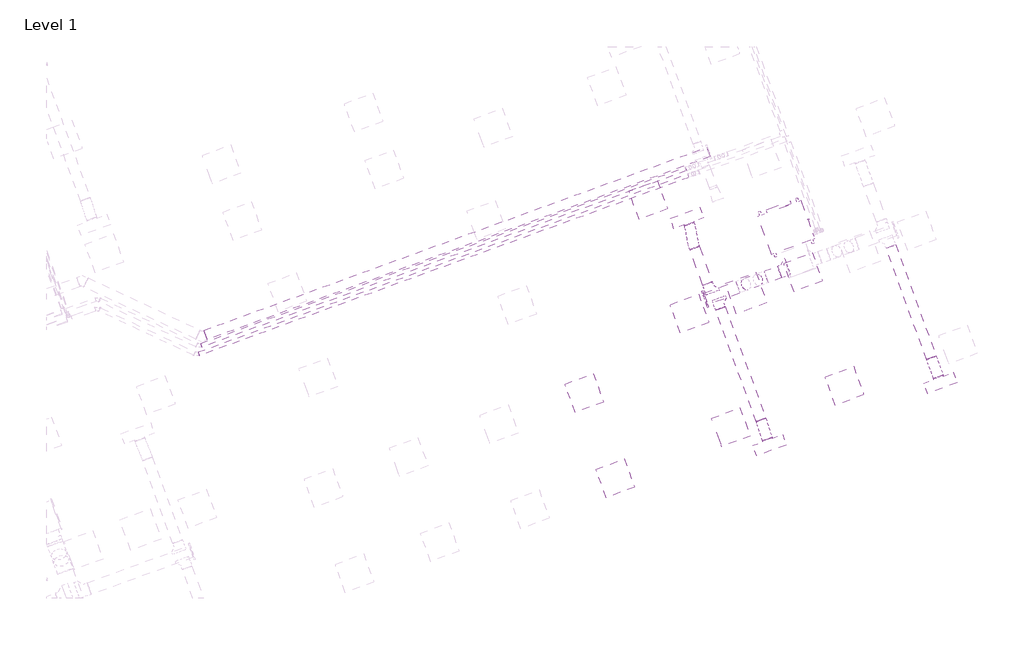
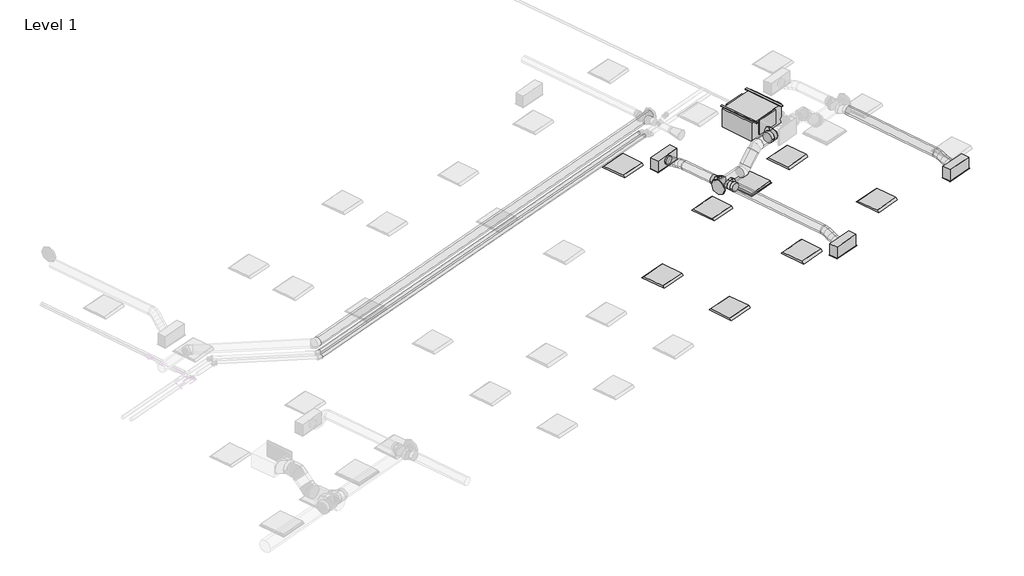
# One storey, part 25 of 30: 10 duct segments, 7 light fixtures, 4 air terminals, 4 duct fittings, 2 pipe segments, 1 proxy.
"""IFC4 building model written with IfcOpenShell, lengths in millimetres."""

from ifc_helpers import new_model, si_unit, point, frame, frame_2d, origin, place, context, project, spatial, circle_curve, ellipse_curve, trimmed, segment, composite_curve, outline, extrude, transform, mapped, element, save
from ifc_brep_helpers import plane_surface, cylinder_surface, advanced_brep
from components import return_grille_rectangular_hosted_standard_7b12617c, supply_diffuser_with_plenum_linear_slot_hosted_8c379eed, fan_coil_unit_ceiling_ducted_chw_376_lps_9c8cc8ac, dw144_round_blank_end_standard_e3d0b58b, dw144_round_shoe_branch_slip_joint1_standard_2_559552f4, dw144_round_shoe_branch_slip_joint1_standard_2_671412f0, light_fixture_1c7c1157, light_fixture_b730b5ca

model = new_model("IFC4")

# Units and contexts
model_context = context("Model", 3, world=origin())
ifc_project = project(units=[si_unit("LENGTHUNIT", "METRE", prefix="MILLI")], contexts=[model_context])

# Site, building, storey
site = spatial("IfcSite", under=ifc_project)
building = spatial("IfcBuilding", under=site)
storey = spatial("IfcBuildingStorey", under=building, Name="Level 1", Elevation=3900.0)

# Air terminals
placement = place(None, origin())
return_grille_rectangular_hosted_standard_shape = return_grille_rectangular_hosted_standard_7b12617c(model_context)
element("IfcAirTerminal", 1, ObjectType="Return Grille - Rectangular - Hosted : Standard", at=placement, inside=storey, context=model_context, shape_type="MappedRepresentation", body=[
    mapped(return_grille_rectangular_hosted_standard_shape, transform((60085.8279951, 13927.8982228, 6700.0), x_axis=(0.939692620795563, 0.3420201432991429, 0.0), y_axis=(0.3420201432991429, -0.939692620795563, 0.0), z_axis=(0.0, 0.0, -1.0))),
])
supply_diffuser_with_plenum_linear_slot_hosted_shape = supply_diffuser_with_plenum_linear_slot_hosted_8c379eed(model_context)
element("IfcAirTerminal", 2, ObjectType="Supply Diffuser with Plenum - Linear Slot - Hosted : 24\" x 8\"-200 In Inlet  4-Slot", at=placement, inside=storey, context=model_context, shape_type="MappedRepresentation", body=[
    mapped(supply_diffuser_with_plenum_linear_slot_hosted_shape, transform((58909.9480529, 15418.2584463, 6700.0), x_axis=(-0.9396926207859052, -0.3420201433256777, 0.0), y_axis=(-0.3420201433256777, 0.9396926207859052, 0.0), z_axis=(0.0, 0.0, -1.0))),
])
element("IfcAirTerminal", 3, ObjectType="Supply Diffuser with Plenum - Linear Slot - Hosted : 24\" x 8\"-200 In Inlet  4-Slot", at=placement, inside=storey, context=model_context, shape_type="MappedRepresentation", body=[
    mapped(supply_diffuser_with_plenum_linear_slot_hosted_shape, transform((60551.6447408, 10907.7338665, 6700.0), x_axis=(0.939692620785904, 0.34202014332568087, 0.0), y_axis=(0.34202014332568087, -0.939692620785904, 0.0), z_axis=(0.0, 0.0, -1.0))),
])
element("IfcAirTerminal", 4, ObjectType="Supply Diffuser with Plenum - Linear Slot - Hosted : 24\" x 8\"-200 In Inlet  4-Slot", at=placement, inside=storey, context=model_context, shape_type="MappedRepresentation", body=[
    mapped(supply_diffuser_with_plenum_linear_slot_hosted_shape, transform((63945.5325789, 12143.008018, 6700.0), x_axis=(0.939692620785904, 0.34202014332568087, 0.0), y_axis=(0.34202014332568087, -0.939692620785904, 0.0), z_axis=(0.0, 0.0, -1.0))),
])

# Proxy
fan_coil_unit_ceiling_ducted_chw_376_lps_shape = fan_coil_unit_ceiling_ducted_chw_376_lps_9c8cc8ac(model_context)
element("IfcBuildingElementProxy", 5, Name="Fan Coil Unit - Ceiling Ducted - CHW : 376 LPS", ObjectType="Fan Coil Unit - Ceiling Ducted - CHW : 376 LPS", at=placement, inside=storey, context=model_context, shape_type="MappedRepresentation", body=[
    mapped(fan_coil_unit_ceiling_ducted_chw_376_lps_shape, transform((60591.3674268, 14691.8764142, 7115.575), x_axis=(0.9396926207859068, 0.34202014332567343, 0.0), y_axis=(-0.34202014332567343, 0.9396926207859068, 0.0), z_axis=(0.0, 0.0, 1.0))),
])

# Duct fittings
dw144_round_blank_end_standard_shape = dw144_round_blank_end_standard_e3d0b58b(model_context)
element("IfcDuctFitting", 6, ObjectType="DW144 Round Blank End : Standard", at=placement, inside=storey, context=model_context, shape_type="MappedRepresentation", body=[
    mapped(dw144_round_blank_end_standard_shape, transform((59281.7426902, 13810.5786489, 6972.2088531), x_axis=(-0.9396926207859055, -0.3420201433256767, 0.0), y_axis=(0.3420201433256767, -0.9396926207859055, 0.0), z_axis=(0.0, 0.0, 1.0))),
])
dw144_round_shoe_branch_slip_joint1_standard_2_shape = dw144_round_shoe_branch_slip_joint1_standard_2_559552f4(model_context)
element("IfcDuctFitting", 7, ObjectType="DW144 Round Shoe Branch - Slip Joint1 : Standard 2", at=placement, inside=storey, context=model_context, shape_type="MappedRepresentation", body=[
    mapped(dw144_round_shoe_branch_slip_joint1_standard_2_shape, transform((59369.8278219, 13975.6612364, 6972.2088531), x_axis=(-0.34202014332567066, 0.9396926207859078, 0.0), y_axis=(0.9396926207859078, 0.34202014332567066, 0.0), z_axis=(0.0, 0.0, -1.0))),
])
element("IfcDuctFitting", 8, ObjectType="DW144 Round Shoe Branch - Slip Joint1 : Standard 2", at=placement, inside=storey, context=model_context, shape_type="MappedRepresentation", body=[
    mapped(dw144_round_shoe_branch_slip_joint1_standard_2_shape, transform((59523.8850118, 13765.6890248, 6972.2088531), x_axis=(0.3420201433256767, -0.9396926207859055, 0.0), y_axis=(0.9396926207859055, 0.3420201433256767, 0.0), z_axis=(0.0, 0.0, 1.0))),
])
dw144_round_shoe_branch_slip_joint1_standard_2_2_shape = dw144_round_shoe_branch_slip_joint1_standard_2_671412f0(model_context)
element("IfcDuctFitting", 9, ObjectType="DW144 Round Shoe Branch - Slip Joint1 : Standard 2", at=placement, inside=storey, context=model_context, shape_type="MappedRepresentation", body=[
    mapped(dw144_round_shoe_branch_slip_joint1_standard_2_2_shape, transform((60916.1183876, 14405.4427543, 7369.575), x_axis=(-0.9396926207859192, -0.3420201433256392, 0.0), y_axis=(-0.3420201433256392, 0.9396926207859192, 0.0), z_axis=(0.0, 0.0, -1.0))),
])

# Duct segments
element("IfcDuctSegment", 10, ObjectType="DW144 Segmented Bend / Shoe Branch", at=placement, inside=storey, context=model_context, shape_type="SweptSolid", body=[
    extrude(outline(composite_curve([segment(trimmed(circle_curve(frame_2d((0.0, 125.0)), 125.0), [point((125.0, 125.0))], [point((0.0, 0.0))], False, "CARTESIAN"), True, "CONTINUOUS"), segment(trimmed(circle_curve(frame_2d((0.0, 125.0)), 125.0), [point((0.0, 0.0))], [point((-125.0, 125.0))], False, "CARTESIAN"), True, "CONTINUOUS"), segment(trimmed(circle_curve(frame_2d((0.0, 125.0)), 125.0), [point((-125.0, 125.0))], [point((0.0, 250.0))], False, "CARTESIAN"), True, "CONTINUOUS"), segment(trimmed(circle_curve(frame_2d((0.0, 125.0)), 125.0), [point((0.0, 250.0))], [point((125.0, 125.0))], False, "CARTESIAN"), True, "CONTINUOUS")], self_intersect=False)), frame((59281.7426902, 13810.5786489, 7097.2088531), z_axis=(0.9396926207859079, 0.3420201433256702, 0.0), x_axis=(0.3420201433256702, -0.9396926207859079, 0.0)), (0.0, 0.0, 1.0), 679.0869492),
])
element("IfcDuctSegment", 11, ObjectType="DW144 Segmented Bend / Shoe Branch", at=placement, inside=storey, context=model_context, shape_type="SweptSolid", body=[
    extrude(outline(composite_curve([segment(trimmed(circle_curve(frame_2d((0.0, -100.0)), 100.0), [point((-100.0, -100.0))], [point((0.0, 0.0))], False, "CARTESIAN"), True, "CONTINUOUS"), segment(trimmed(circle_curve(frame_2d((0.0, -100.0)), 100.0), [point((0.0, 0.0))], [point((100.0, -100.0))], False, "CARTESIAN"), True, "CONTINUOUS"), segment(trimmed(circle_curve(frame_2d((0.0, -100.0)), 100.0), [point((100.0, -100.0))], [point((0.0, -200.0))], False, "CARTESIAN"), True, "CONTINUOUS"), segment(trimmed(circle_curve(frame_2d((0.0, -100.0)), 100.0), [point((0.0, -200.0))], [point((-100.0, -100.0))], False, "CARTESIAN"), True, "CONTINUOUS")], self_intersect=False)), frame((63763.6810908, 12642.6408754, 6872.2088531), z_axis=(-0.34202014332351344, 0.9396926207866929, 0.0), x_axis=(0.9396926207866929, 0.34202014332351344, 0.0)), (0.0, 0.0, 1.0), 2355.4157214),
])
element("IfcDuctSegment", 12, ObjectType="DW144 Segmented Bend / Shoe Branch", at=placement, inside=storey, context=model_context, shape_type="SweptSolid", body=[
    extrude(outline(composite_curve([segment(trimmed(circle_curve(frame_2d((0.0, 100.0)), 100.0), [point((99.9999999, 100.0))], [point((0.0, 0.0))], False, "CARTESIAN"), True, "CONTINUOUS"), segment(trimmed(circle_curve(frame_2d((0.0, 100.0)), 100.0), [point((0.0, 0.0))], [point((-100.0, 100.0))], False, "CARTESIAN"), True, "CONTINUOUS"), segment(trimmed(circle_curve(frame_2d((0.0, 100.0)), 100.0), [point((-100.0, 100.0))], [point((0.0, 200.0))], False, "CARTESIAN"), True, "CONTINUOUS"), segment(trimmed(circle_curve(frame_2d((0.0, 100.0)), 100.0), [point((0.0, 200.0))], [point((99.9999999, 100.0))], False, "CARTESIAN"), True, "CONTINUOUS")], self_intersect=False)), frame((59318.5248004, 14116.6151296, 7072.2088531), z_axis=(-0.3420201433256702, 0.9396926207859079, 0.0), x_axis=(0.9396926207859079, 0.3420201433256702, 0.0)), (0.0, 0.0, 1.0), 750.0),
])
element("IfcDuctSegment", 13, ObjectType="DW144 Segmented Bend / Shoe Branch", at=placement, inside=storey, context=model_context, shape_type="SweptSolid", body=[
    extrude(outline(composite_curve([segment(trimmed(circle_curve(frame_2d((0.0, 100.0)), 100.0), [point((100.0, 100.0))], [point((0.0, 0.0))], False, "CARTESIAN"), True, "CONTINUOUS"), segment(trimmed(circle_curve(frame_2d((0.0, 100.0)), 100.0), [point((0.0, 0.0))], [point((-99.9999999, 100.0))], False, "CARTESIAN"), True, "CONTINUOUS"), segment(trimmed(circle_curve(frame_2d((0.0, 100.0)), 100.0), [point((-99.9999999, 100.0))], [point((0.0, 200.0))], False, "CARTESIAN"), True, "CONTINUOUS"), segment(trimmed(circle_curve(frame_2d((0.0, 100.0)), 100.0), [point((0.0, 200.0))], [point((100.0, 100.0))], False, "CARTESIAN"), True, "CONTINUOUS")], self_intersect=False)), frame((60380.7876559, 11411.3683594, 7072.2088531), z_axis=(-0.34202014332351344, 0.9396926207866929, 0.0), x_axis=(0.9396926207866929, 0.34202014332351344, 0.0)), (0.0, 0.0, 1.0), 2355.4157214),
])
element("IfcDuctSegment", 14, ObjectType="DW144 Segmented Bend / Shoe Branch", at=placement, inside=storey, context=model_context, shape_type="SweptSolid", body=[
    extrude(outline(composite_curve([segment(trimmed(circle_curve(frame_2d((0.0, -125.0)), 125.0), [point((-125.0, -125.0))], [point((0.0, 0.0))], False, "CARTESIAN"), True, "CONTINUOUS"), segment(trimmed(circle_curve(frame_2d((0.0, -125.0)), 125.0), [point((0.0, 0.0))], [point((125.0, -125.0))], False, "CARTESIAN"), True, "CONTINUOUS"), segment(trimmed(circle_curve(frame_2d((0.0, -125.0)), 125.0), [point((125.0, -125.0))], [point((0.0, -250.0))], False, "CARTESIAN"), True, "CONTINUOUS"), segment(trimmed(circle_curve(frame_2d((0.0, -125.0)), 125.0), [point((0.0, -250.0))], [point((-125.0, -125.0))], False, "CARTESIAN"), True, "CONTINUOUS")], self_intersect=False)), frame((60487.8944352, 14249.5819821, 7244.575), z_axis=(0.9396926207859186, 0.3420201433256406, 0.0), x_axis=(0.3420201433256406, -0.9396926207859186, 0.0)), (0.0, 0.0, 1.0), 280.7064117),
])
element("IfcDuctSegment", 15, ObjectType="DW144 Segmented Bend / Shoe Branch", at=placement, inside=storey, context=model_context, shape_type="SweptSolid", body=[
    extrude(outline(composite_curve([segment(trimmed(circle_curve(frame_2d((0.0, -125.0)), 125.0), [point((-57.2076922, -13.8591887))], [point((111.1408113, -67.7923077))], False, "CARTESIAN"), True, "CONTINUOUS"), segment(trimmed(circle_curve(frame_2d((0.0, -125.0)), 125.0), [point((111.1408113, -67.7923077))], [point((57.2076923, -236.1408114))], False, "CARTESIAN"), True, "CONTINUOUS"), segment(trimmed(circle_curve(frame_2d((0.0, -125.0)), 125.0), [point((57.2076923, -236.1408114))], [point((-111.1408114, -182.2076923))], False, "CARTESIAN"), True, "CONTINUOUS"), segment(trimmed(circle_curve(frame_2d((0.0, -125.0)), 125.0), [point((-111.1408114, -182.2076923))], [point((-57.2076922, -13.8591887))], False, "CARTESIAN"), True, "CONTINUOUS")], self_intersect=False)), frame((60085.9914414, 14221.5748363, 7004.9802107), z_axis=(0.6644630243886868, 0.24184476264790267, 0.7071067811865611), x_axis=(0.7473211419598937, -0.21503058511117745, -0.6287073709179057)), (0.0, 0.0, 1.0), 354.8538129),
])
element("IfcDuctSegment", 16, ObjectType="DW144 Segmented Bend / Shoe Branch", at=placement, inside=storey, context=model_context, shape_type="SweptSolid", body=[
    extrude(outline(composite_curve([segment(trimmed(circle_curve(frame_2d((0.0, 100.0)), 100.0), [point((100.0, 100.0))], [point((0.0, 0.0))], False, "CARTESIAN"), True, "CONTINUOUS"), segment(trimmed(circle_curve(frame_2d((0.0, 100.0)), 100.0), [point((0.0, 0.0))], [point((-99.9999999, 100.0))], False, "CARTESIAN"), True, "CONTINUOUS"), segment(trimmed(circle_curve(frame_2d((0.0, 100.0)), 100.0), [point((-99.9999999, 100.0))], [point((0.0, 200.0))], False, "CARTESIAN"), True, "CONTINUOUS"), segment(trimmed(circle_curve(frame_2d((0.0, 100.0)), 100.0), [point((0.0, 200.0))], [point((100.0, 100.0))], False, "CARTESIAN"), True, "CONTINUOUS")], self_intersect=False)), frame((49357.2153843, 13096.2096323, 7100.0), z_axis=(0.9396926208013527, 0.34202014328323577, 0.0), x_axis=(0.34202014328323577, -0.9396926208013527, 0.0)), (0.0, 0.0, 1.0), 10617.3976502),
])
element("IfcDuctSegment", 17, ObjectType="Flex - Round", at=placement, inside=storey, context=model_context, shape_type="AdvancedBrep", body=[
    advanced_brep(
    [(58968.0404308, 14787.1825808, 6972.2088531), (59062.0096929, 14821.3845951, 6872.2088531), (59155.9789549, 14855.5866095, 6972.2088531), (59062.0096929, 14821.3845951, 7072.2088531), (58962.5721424, 14802.2065796, 6972.2088531), (59060.2125358, 14826.3222437, 6872.2088531), (59153.0222525, 14863.7100827, 6972.2088531), (59055.3818591, 14839.5944186, 7072.2088531), (58860.0651873, 15262.9300531, 6854.4), (58954.0344493, 15297.1320675, 6954.4), (59048.0037114, 15331.3340818, 6854.4), (58954.0344493, 15297.1320675, 6754.4), (58937.0196311, 14892.6674709, 6958.8839491), (59040.6740237, 14895.4924005, 6862.0200778), (59131.5841884, 14939.6050256, 6961.0295157), (59027.9297957, 14936.780096, 7057.893387), (58917.4963466, 14993.0799105, 6928.1156387), (59024.0290854, 14981.1008882, 6835.787984), (59114.0301099, 15029.8894164, 6933.364635), (59007.4973711, 15041.8684386, 7025.6922896), (58902.0140323, 15088.6272463, 6893.2442181), (59008.5467711, 15076.648224, 6800.9165635), (59098.5477956, 15125.4367521, 6898.4932145), (58992.0150568, 15137.4157744, 6990.8208691), (58884.4599539, 15178.911637, 6865.5793374), (58988.1143465, 15181.7365666, 6768.7154661), (59079.0245111, 15225.8491917, 6867.724904), (58975.3701185, 15223.0242621, 6964.5887754), (58863.0218897, 15254.8065799, 6854.4), (58960.6622831, 15278.922244, 6754.4), (59053.4719998, 15316.310083, 6854.4), (58955.8316064, 15292.1944189, 6954.4)],
    [
        (0, 1, circle_curve(frame((59062.0096929, 14821.3845951, 6972.2088531), z_axis=(0.34202014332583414, -0.9396926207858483, 0.0), x_axis=(-0.9396926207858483, -0.34202014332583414, 0.0)), 100.0)),
        (1, 2, circle_curve(frame((59062.0096929, 14821.3845951, 6972.2088531), z_axis=(0.34202014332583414, -0.9396926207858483, 0.0), x_axis=(-0.9396926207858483, -0.34202014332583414, 0.0)), 100.0)),
        (2, 3, circle_curve(frame((59062.0096929, 14821.3845951, 6972.2088531), z_axis=(0.34202014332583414, -0.9396926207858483, 0.0), x_axis=(-0.9396926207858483, -0.34202014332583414, 0.0)), 100.0)),
        (3, 0, circle_curve(frame((59062.0096929, 14821.3845951, 6972.2088531), z_axis=(0.34202014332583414, -0.9396926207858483, 0.0), x_axis=(-0.9396926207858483, -0.34202014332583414, 0.0)), 100.0)),
        (0, 4),
        (4, 5, ellipse_curve(frame((59057.7971975, 14832.9583311, 6972.2088531), z_axis=(0.30654801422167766, -0.949248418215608, 0.07039712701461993), x_axis=(0.4592505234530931, 0.08271786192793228, -0.8844471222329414)), 100.3162641, 100.0)),
        (5, 1),
        (5, 6, ellipse_curve(frame((59057.7971975, 14832.9583311, 6972.2088531), z_axis=(0.30654801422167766, -0.949248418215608, 0.07039712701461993), x_axis=(0.4592505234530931, 0.08271786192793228, -0.8844471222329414)), 100.3162641, 100.0)),
        (6, 2),
        (6, 7, ellipse_curve(frame((59057.7971975, 14832.9583311, 6972.2088531), z_axis=(0.30654801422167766, -0.949248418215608, 0.07039712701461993), x_axis=(0.4592505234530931, 0.08271786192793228, -0.8844471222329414)), 100.3162641, 100.0)),
        (7, 3),
        (7, 4, ellipse_curve(frame((59057.7971975, 14832.9583311, 6972.2088531), z_axis=(0.30654801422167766, -0.949248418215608, 0.07039712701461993), x_axis=(0.4592505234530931, 0.08271786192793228, -0.8844471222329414)), 100.3162641, 100.0)),
        (8, 9, circle_curve(frame((58954.0344493, 15297.1320675, 6854.4), z_axis=(-0.3420201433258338, 0.9396926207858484, 0.0), x_axis=(-0.9396926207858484, -0.3420201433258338, 0.0)), 100.0)),
        (9, 10, circle_curve(frame((58954.0344493, 15297.1320675, 6854.4), z_axis=(-0.3420201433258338, 0.9396926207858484, 0.0), x_axis=(-0.9396926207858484, -0.3420201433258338, 0.0)), 100.0)),
        (10, 11, circle_curve(frame((58954.0344493, 15297.1320675, 6854.4), z_axis=(-0.3420201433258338, 0.9396926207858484, 0.0), x_axis=(-0.9396926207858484, -0.3420201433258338, 0.0)), 100.0)),
        (11, 8, circle_curve(frame((58954.0344493, 15297.1320675, 6854.4), z_axis=(-0.3420201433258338, 0.9396926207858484, 0.0), x_axis=(-0.9396926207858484, -0.3420201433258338, 0.0)), 100.0)),
        (4, 12),
        (12, 13, ellipse_curve(frame((59034.3019097, 14916.1362483, 6959.9567324), z_axis=(0.2267915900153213, -0.9499189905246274, 0.2149871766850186), x_axis=(0.5034364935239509, -0.07462382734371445, -0.8608036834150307)), 100.3699991, 100.0)),
        (13, 5),
        (13, 14, ellipse_curve(frame((59034.3019097, 14916.1362483, 6959.9567324), z_axis=(0.2267915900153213, -0.9499189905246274, 0.2149871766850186), x_axis=(0.5034364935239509, -0.07462382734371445, -0.8608036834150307)), 100.3699991, 100.0)),
        (14, 6),
        (14, 15, ellipse_curve(frame((59034.3019097, 14916.1362483, 6959.9567324), z_axis=(0.2267915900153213, -0.9499189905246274, 0.2149871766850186), x_axis=(0.5034364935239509, -0.07462382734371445, -0.8608036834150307)), 100.3699991, 100.0)),
        (15, 7),
        (15, 12, ellipse_curve(frame((59034.3019097, 14916.1362483, 6959.9567324), z_axis=(0.2267915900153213, -0.9499189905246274, 0.2149871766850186), x_axis=(0.5034364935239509, -0.07462382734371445, -0.8608036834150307)), 100.3699991, 100.0)),
        (12, 16),
        (16, 17, ellipse_curve(frame((59015.7632282, 15011.4846634, 6930.7401368), z_axis=(0.1667044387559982, -0.9347947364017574, 0.3136374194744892), x_axis=(0.5263956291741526, -0.1845903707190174, -0.8299602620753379)), 100.0470512, 100.0)),
        (17, 13),
        (17, 18, ellipse_curve(frame((59015.7632282, 15011.4846634, 6930.7401368), z_axis=(0.1667044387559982, -0.9347947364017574, 0.3136374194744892), x_axis=(0.5263956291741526, -0.1845903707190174, -0.8299602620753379)), 100.0470512, 100.0)),
        (18, 14),
        (18, 19, ellipse_curve(frame((59015.7632282, 15011.4846634, 6930.7401368), z_axis=(0.1667044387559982, -0.9347947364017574, 0.3136374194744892), x_axis=(0.5263956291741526, -0.1845903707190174, -0.8299602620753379)), 100.0470512, 100.0)),
        (19, 15),
        (19, 16, ellipse_curve(frame((59015.7632282, 15011.4846634, 6930.7401368), z_axis=(0.1667044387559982, -0.9347947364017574, 0.3136374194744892), x_axis=(0.5263956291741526, -0.1845903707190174, -0.8299602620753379)), 100.0470512, 100.0)),
        (16, 20),
        (20, 21, ellipse_curve(frame((59000.280914, 15107.0319992, 6895.8687163), z_axis=(0.16670443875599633, -0.9347947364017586, 0.31363741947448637), x_axis=(-0.5263956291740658, 0.18459037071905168, 0.8299602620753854)), 100.0470512, 100.0)),
        (21, 17),
        (21, 22, ellipse_curve(frame((59000.280914, 15107.0319992, 6895.8687163), z_axis=(0.16670443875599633, -0.9347947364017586, 0.31363741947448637), x_axis=(-0.5263956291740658, 0.18459037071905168, 0.8299602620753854)), 100.0470512, 100.0)),
        (22, 18),
        (22, 23, ellipse_curve(frame((59000.280914, 15107.0319992, 6895.8687163), z_axis=(0.16670443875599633, -0.9347947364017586, 0.31363741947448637), x_axis=(-0.5263956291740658, 0.18459037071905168, 0.8299602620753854)), 100.0470512, 100.0)),
        (23, 19),
        (23, 20, ellipse_curve(frame((59000.280914, 15107.0319992, 6895.8687163), z_axis=(0.16670443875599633, -0.9347947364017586, 0.31363741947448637), x_axis=(-0.5263956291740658, 0.18459037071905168, 0.8299602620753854)), 100.0470512, 100.0)),
        (20, 24),
        (24, 25, ellipse_curve(frame((58981.7422325, 15202.3804143, 6866.6521207), z_axis=(0.22679159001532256, -0.9499189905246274, 0.21498717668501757), x_axis=(-0.5034364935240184, 0.07462382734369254, 0.8608036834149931)), 100.3699991, 100.0)),
        (25, 21),
        (25, 26, ellipse_curve(frame((58981.7422325, 15202.3804143, 6866.6521207), z_axis=(0.22679159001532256, -0.9499189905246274, 0.21498717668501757), x_axis=(-0.5034364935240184, 0.07462382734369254, 0.8608036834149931)), 100.3699991, 100.0)),
        (26, 22),
        (26, 27, ellipse_curve(frame((58981.7422325, 15202.3804143, 6866.6521207), z_axis=(0.22679159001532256, -0.9499189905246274, 0.21498717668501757), x_axis=(-0.5034364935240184, 0.07462382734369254, 0.8608036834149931)), 100.3699991, 100.0)),
        (27, 23),
        (27, 24, ellipse_curve(frame((58981.7422325, 15202.3804143, 6866.6521207), z_axis=(0.22679159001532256, -0.9499189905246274, 0.21498717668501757), x_axis=(-0.5034364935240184, 0.07462382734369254, 0.8608036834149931)), 100.3699991, 100.0)),
        (24, 28),
        (28, 29, ellipse_curve(frame((58958.2469447, 15285.5583315, 6854.4), z_axis=(0.3065480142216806, -0.9492484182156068, 0.07039712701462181), x_axis=(-0.4592505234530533, -0.08271786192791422, 0.8844471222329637)), 100.3162641, 100.0)),
        (29, 25),
        (29, 30, ellipse_curve(frame((58958.2469447, 15285.5583315, 6854.4), z_axis=(0.3065480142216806, -0.9492484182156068, 0.07039712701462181), x_axis=(-0.4592505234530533, -0.08271786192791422, 0.8844471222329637)), 100.3162641, 100.0)),
        (30, 26),
        (30, 31, ellipse_curve(frame((58958.2469447, 15285.5583315, 6854.4), z_axis=(0.3065480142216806, -0.9492484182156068, 0.07039712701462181), x_axis=(-0.4592505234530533, -0.08271786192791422, 0.8844471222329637)), 100.3162641, 100.0)),
        (31, 27),
        (31, 28, ellipse_curve(frame((58958.2469447, 15285.5583315, 6854.4), z_axis=(0.3065480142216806, -0.9492484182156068, 0.07039712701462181), x_axis=(-0.4592505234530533, -0.08271786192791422, 0.8844471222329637)), 100.3162641, 100.0)),
        (28, 8),
        (11, 29),
        (10, 30),
        (9, 31),
    ],
    [
        plane_surface(frame((59062.0096929, 14821.3845951, 7072.2088531), z_axis=(0.3420201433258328, -0.9396926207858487, 0.0), x_axis=(0.9396926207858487, 0.3420201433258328, 0.0))),
        cylinder_surface(frame((59062.0096929, 14821.3845951, 6972.2088531), z_axis=(0.34202014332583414, -0.9396926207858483, 0.0), x_axis=(-0.9396926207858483, -0.34202014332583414, 0.0)), 100.0),
        plane_surface(frame((58954.0344493, 15297.1320675, 6954.4), z_axis=(-0.3420201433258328, 0.9396926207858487, 0.0), x_axis=(0.9396926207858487, 0.3420201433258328, 0.0))),
        cylinder_surface(frame((59057.7971975, 14832.9583311, 6972.2088531), z_axis=(0.26914299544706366, -0.9528188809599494, 0.14035037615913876), x_axis=(-0.9621326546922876, -0.2725329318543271, -0.005153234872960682)), 100.0),
        cylinder_surface(frame((59034.3019097, 14916.1362483, 6959.9567324), z_axis=(0.18276811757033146, -0.9400156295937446, 0.2880389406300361), x_axis=(-0.980082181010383, -0.19735114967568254, -0.022168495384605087)), 100.0),
        cylinder_surface(frame((59015.7632282, 15011.4846634, 6930.7401368), z_axis=(0.1504839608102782, -0.9286945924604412, 0.33894089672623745), x_axis=(-0.9847985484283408, -0.1709041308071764, -0.031041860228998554)), 100.0),
        cylinder_surface(frame((59000.280914, 15107.0319992, 6895.8687163), z_axis=(0.18276811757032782, -0.9400156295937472, 0.28803894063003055), x_axis=(-0.9800821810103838, -0.19735114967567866, -0.02216849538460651)), 100.0),
        cylinder_surface(frame((58981.7422325, 15202.3804143, 6866.6521207), z_axis=(0.2691429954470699, -0.952818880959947, 0.14035037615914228), x_axis=(-0.9621326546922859, -0.2725329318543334, -0.005153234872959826)), 100.0),
        cylinder_surface(frame((58958.2469447, 15285.5583315, 6854.4), z_axis=(0.3420201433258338, -0.9396926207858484, 0.0), x_axis=(-0.9396926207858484, -0.3420201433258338, 0.0)), 100.0),
    ],
    [
        (0, [[1, 2, 3, 4]]),
        (1, [[-1, 5, 6, 7]]),
        (1, [[-2, -7, 8, 9]]),
        (1, [[-3, -9, 10, 11]]),
        (1, [[-4, -11, 12, -5]]),
        (2, [[13, 14, 15, 16]]),
        (3, [[-6, 17, 18, 19]]),
        (3, [[-8, -19, 20, 21]]),
        (3, [[-10, -21, 22, 23]]),
        (3, [[-12, -23, 24, -17]]),
        (4, [[-18, 25, 26, 27]]),
        (4, [[-20, -27, 28, 29]]),
        (4, [[-22, -29, 30, 31]]),
        (4, [[-24, -31, 32, -25]]),
        (5, [[-26, 33, 34, 35]]),
        (5, [[-28, -35, 36, 37]]),
        (5, [[-30, -37, 38, 39]]),
        (5, [[-32, -39, 40, -33]]),
        (6, [[-34, 41, 42, 43]]),
        (6, [[-36, -43, 44, 45]]),
        (6, [[-38, -45, 46, 47]]),
        (6, [[-40, -47, 48, -41]]),
        (7, [[-42, 49, 50, 51]]),
        (7, [[-44, -51, 52, 53]]),
        (7, [[-46, -53, 54, 55]]),
        (7, [[-48, -55, 56, -49]]),
        (8, [[-50, 57, -16, 58]]),
        (8, [[-52, -58, -15, 59]]),
        (8, [[-54, -59, -14, 60]]),
        (8, [[-56, -60, -13, -57]]),
    ],
),
])
element("IfcDuctSegment", 18, ObjectType="Flex - Round", at=placement, inside=storey, context=model_context, shape_type="AdvancedBrep", body=[
    advanced_brep(
    [(60474.756918, 11445.5703738, 6972.2088531), (60380.7876559, 11411.3683594, 6872.2088531), (60286.8183939, 11377.1663451, 6972.2088531), (60380.7876559, 11411.3683594, 7072.2088531), (60481.1783888, 11427.9275278, 6972.2088531), (60383.1659532, 11404.8340413, 6872.2088531), (60292.5093335, 11361.5306171, 6972.2088531), (60390.521769, 11384.6241035, 7072.2088531), (60601.5276064, 11063.0622597, 6854.4), (60507.5583444, 11028.8602453, 6954.4), (60413.5890823, 10994.658231, 6854.4), (60507.5583444, 11028.8602453, 6754.4), (60508.9989965, 11346.0267123, 6953.3905604), (60404.2663672, 11342.7167385, 6857.9362042), (60319.1157189, 11283.2043385, 6954.2118792), (60423.8483482, 11286.5143124, 7049.6662355), (60539.3574463, 11250.763573, 6912.5672617), (60431.9371496, 11255.8873513, 6820.7270377), (60348.988554, 11189.4650317, 6914.0415914), (60456.4088507, 11184.3412534, 7005.8818154), (60569.2302814, 11157.0242662, 6872.3969739), (60464.4976521, 11153.7142924, 6776.9426177), (60379.3470038, 11094.2018924, 6873.2182927), (60484.0796331, 11097.5118663, 6968.6726489), (60595.8366668, 11078.6979877, 6854.4), (60497.8242313, 11055.6045013, 6754.4), (60407.1676115, 11012.301077, 6854.4), (60505.1800471, 11035.3945634, 6954.4)],
    [
        (0, 1, circle_curve(frame((60380.7876559, 11411.3683594, 6972.2088531), z_axis=(-0.3420201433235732, 0.9396926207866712, 0.0), x_axis=(0.9396926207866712, 0.3420201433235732, 0.0)), 100.0)),
        (1, 2, circle_curve(frame((60380.7876559, 11411.3683594, 6972.2088531), z_axis=(-0.3420201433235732, 0.9396926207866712, 0.0), x_axis=(0.9396926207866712, 0.3420201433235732, 0.0)), 100.0)),
        (2, 3, circle_curve(frame((60380.7876559, 11411.3683594, 6972.2088531), z_axis=(-0.3420201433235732, 0.9396926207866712, 0.0), x_axis=(0.9396926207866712, 0.3420201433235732, 0.0)), 100.0)),
        (3, 0, circle_curve(frame((60380.7876559, 11411.3683594, 6972.2088531), z_axis=(-0.3420201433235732, 0.9396926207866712, 0.0), x_axis=(0.9396926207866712, 0.3420201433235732, 0.0)), 100.0)),
        (0, 4),
        (4, 5, ellipse_curve(frame((60386.8438611, 11394.7290724, 6972.2088531), z_axis=(-0.33006294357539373, 0.9378849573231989, 0.10691239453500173), x_axis=(-0.12907576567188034, 0.06735376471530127, -0.9893446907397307)), 100.582195, 100.0)),
        (5, 1),
        (5, 6, ellipse_curve(frame((60386.8438611, 11394.7290724, 6972.2088531), z_axis=(-0.33006294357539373, 0.9378849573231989, 0.10691239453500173), x_axis=(-0.12907576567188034, 0.06735376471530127, -0.9893446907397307)), 100.582195, 100.0)),
        (6, 2),
        (6, 7, ellipse_curve(frame((60386.8438611, 11394.7290724, 6972.2088531), z_axis=(-0.33006294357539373, 0.9378849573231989, 0.10691239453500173), x_axis=(-0.12907576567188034, 0.06735376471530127, -0.9893446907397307)), 100.582195, 100.0)),
        (7, 3),
        (7, 4, ellipse_curve(frame((60386.8438611, 11394.7290724, 6972.2088531), z_axis=(-0.33006294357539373, 0.9378849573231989, 0.10691239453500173), x_axis=(-0.12907576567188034, 0.06735376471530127, -0.9893446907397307)), 100.582195, 100.0)),
        (8, 9, circle_curve(frame((60507.5583444, 11028.8602453, 6854.4), z_axis=(0.34202014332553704, -0.9396926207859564, 0.0), x_axis=(0.9396926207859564, 0.34202014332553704, 0.0)), 100.0)),
        (9, 10, circle_curve(frame((60507.5583444, 11028.8602453, 6854.4), z_axis=(0.34202014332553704, -0.9396926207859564, 0.0), x_axis=(0.9396926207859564, 0.34202014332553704, 0.0)), 100.0)),
        (10, 11, circle_curve(frame((60507.5583444, 11028.8602453, 6854.4), z_axis=(0.34202014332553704, -0.9396926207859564, 0.0), x_axis=(0.9396926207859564, 0.34202014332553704, 0.0)), 100.0)),
        (11, 8, circle_curve(frame((60507.5583444, 11028.8602453, 6854.4), z_axis=(0.34202014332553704, -0.9396926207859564, 0.0), x_axis=(0.9396926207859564, 0.34202014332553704, 0.0)), 100.0)),
        (4, 12),
        (12, 13, ellipse_curve(frame((60414.0573577, 11314.6155254, 6953.8012198), z_axis=(-0.2988301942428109, 0.9071022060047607, 0.296422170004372), x_axis=(-0.19053245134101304, 0.24764957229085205, -0.9499300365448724)), 100.3812182, 100.0)),
        (13, 5),
        (13, 14, ellipse_curve(frame((60414.0573577, 11314.6155254, 6953.8012198), z_axis=(-0.2988301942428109, 0.9071022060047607, 0.296422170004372), x_axis=(-0.19053245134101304, 0.24764957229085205, -0.9499300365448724)), 100.3812182, 100.0)),
        (14, 6),
        (14, 15, ellipse_curve(frame((60414.0573577, 11314.6155254, 6953.8012198), z_axis=(-0.2988301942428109, 0.9071022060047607, 0.296422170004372), x_axis=(-0.19053245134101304, 0.24764957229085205, -0.9499300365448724)), 100.3812182, 100.0)),
        (15, 7),
        (15, 12, ellipse_curve(frame((60414.0573577, 11314.6155254, 6953.8012198), z_axis=(-0.2988301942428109, 0.9071022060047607, 0.296422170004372), x_axis=(-0.19053245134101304, 0.24764957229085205, -0.9499300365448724)), 100.3812182, 100.0)),
        (12, 16),
        (16, 17, circle_curve(frame((60444.1730002, 11220.1143024, 6913.3044266), z_axis=(-0.2811058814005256, 0.8820947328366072, 0.3780057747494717), x_axis=(0.9518444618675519, 0.3064927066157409, -0.007371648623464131)), 100.0)),
        (17, 13),
        (17, 18, circle_curve(frame((60444.1730002, 11220.1143024, 6913.3044266), z_axis=(-0.2811058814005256, 0.8820947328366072, 0.3780057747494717), x_axis=(0.9518444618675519, 0.3064927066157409, -0.007371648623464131)), 100.0)),
        (18, 14),
        (18, 19, circle_curve(frame((60444.1730002, 11220.1143024, 6913.3044266), z_axis=(-0.2811058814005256, 0.8820947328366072, 0.3780057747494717), x_axis=(0.9518444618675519, 0.3064927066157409, -0.007371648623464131)), 100.0)),
        (19, 15),
        (19, 16, circle_curve(frame((60444.1730002, 11220.1143024, 6913.3044266), z_axis=(-0.2811058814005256, 0.8820947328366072, 0.3780057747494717), x_axis=(0.9518444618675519, 0.3064927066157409, -0.007371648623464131)), 100.0)),
        (16, 20),
        (20, 21, ellipse_curve(frame((60474.2886426, 11125.6130793, 6872.8076333), z_axis=(-0.2988301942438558, 0.907102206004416, 0.2964221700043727), x_axis=(0.19053245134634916, -0.2476495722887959, 0.949930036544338)), 100.3812182, 100.0)),
        (21, 17),
        (21, 22, ellipse_curve(frame((60474.2886426, 11125.6130793, 6872.8076333), z_axis=(-0.2988301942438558, 0.907102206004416, 0.2964221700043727), x_axis=(0.19053245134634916, -0.2476495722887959, 0.949930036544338)), 100.3812182, 100.0)),
        (22, 18),
        (22, 23, ellipse_curve(frame((60474.2886426, 11125.6130793, 6872.8076333), z_axis=(-0.2988301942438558, 0.907102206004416, 0.2964221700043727), x_axis=(0.19053245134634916, -0.2476495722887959, 0.949930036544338)), 100.3812182, 100.0)),
        (23, 19),
        (23, 20, ellipse_curve(frame((60474.2886426, 11125.6130793, 6872.8076333), z_axis=(-0.2988301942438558, 0.907102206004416, 0.2964221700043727), x_axis=(0.19053245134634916, -0.2476495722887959, 0.949930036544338)), 100.3812182, 100.0)),
        (20, 24),
        (24, 25, ellipse_curve(frame((60501.5021392, 11045.4995324, 6854.4), z_axis=(-0.3300629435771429, 0.9378849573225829, 0.10691239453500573), x_axis=(0.12907576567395, -0.06735376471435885, 0.9893446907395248)), 100.582195, 100.0)),
        (25, 21),
        (25, 26, ellipse_curve(frame((60501.5021392, 11045.4995324, 6854.4), z_axis=(-0.3300629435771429, 0.9378849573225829, 0.10691239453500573), x_axis=(0.12907576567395, -0.06735376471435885, 0.9893446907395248)), 100.582195, 100.0)),
        (26, 22),
        (26, 27, ellipse_curve(frame((60501.5021392, 11045.4995324, 6854.4), z_axis=(-0.3300629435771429, 0.9378849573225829, 0.10691239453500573), x_axis=(0.12907576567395, -0.06735376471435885, 0.9893446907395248)), 100.582195, 100.0)),
        (27, 23),
        (27, 24, ellipse_curve(frame((60501.5021392, 11045.4995324, 6854.4), z_axis=(-0.3300629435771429, 0.9378849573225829, 0.10691239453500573), x_axis=(0.12907576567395, -0.06735376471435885, 0.9893446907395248)), 100.582195, 100.0)),
        (24, 8),
        (11, 25),
        (10, 26),
        (9, 27),
    ],
    [
        plane_surface(frame((60380.7876559, 11411.3683594, 6872.2088531), z_axis=(-0.34202014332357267, 0.9396926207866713, 0.0), x_axis=(0.9396926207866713, 0.34202014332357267, 0.0))),
        cylinder_surface(frame((60380.7876559, 11411.3683594, 6972.2088531), z_axis=(-0.3420201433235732, 0.9396926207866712, 0.0), x_axis=(0.9396926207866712, 0.3420201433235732, 0.0)), 100.0),
        plane_surface(frame((60507.5583444, 11028.8602453, 6754.4), z_axis=(0.3420201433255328, -0.9396926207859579, 0.0), x_axis=(0.9396926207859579, 0.3420201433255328, 0.0))),
        cylinder_surface(frame((60386.8438611, 11394.7290724, 6972.2088531), z_axis=(-0.31428476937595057, 0.9252198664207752, 0.2125871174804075), x_axis=(0.9467017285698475, 0.32210352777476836, -0.0022703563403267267)), 100.0),
        cylinder_surface(frame((60414.0573577, 11314.6155254, 6953.8012198), z_axis=(-0.2811058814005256, 0.8820947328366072, 0.3780057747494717), x_axis=(0.9518444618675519, 0.3064927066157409, -0.007371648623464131)), 100.0),
        cylinder_surface(frame((60444.1730002, 11220.1143024, 6913.3044266), z_axis=(-0.2811058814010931, 0.88209473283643, 0.3780057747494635), x_axis=(0.951844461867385, 0.3064927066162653, -0.007371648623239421)), 100.0),
        cylinder_surface(frame((60474.2886426, 11125.6130793, 6872.8076333), z_axis=(-0.3142847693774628, 0.9252198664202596, 0.21258711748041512), x_axis=(0.9467017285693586, 0.3221035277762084, -0.002270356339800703)), 100.0),
        cylinder_surface(frame((60501.5021392, 11045.4995324, 6854.4), z_axis=(-0.34202014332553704, 0.9396926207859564, 0.0), x_axis=(0.9396926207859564, 0.34202014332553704, 0.0)), 100.0),
    ],
    [
        (0, [[1, 2, 3, 4]]),
        (1, [[-1, 5, 6, 7]]),
        (1, [[-2, -7, 8, 9]]),
        (1, [[-3, -9, 10, 11]]),
        (1, [[-4, -11, 12, -5]]),
        (2, [[13, 14, 15, 16]]),
        (3, [[-6, 17, 18, 19]]),
        (3, [[-8, -19, 20, 21]]),
        (3, [[-10, -21, 22, 23]]),
        (3, [[-12, -23, 24, -17]]),
        (4, [[-18, 25, 26, 27]]),
        (4, [[-20, -27, 28, 29]]),
        (4, [[-22, -29, 30, 31]]),
        (4, [[-24, -31, 32, -25]]),
        (5, [[-26, 33, 34, 35]]),
        (5, [[-28, -35, 36, 37]]),
        (5, [[-30, -37, 38, 39]]),
        (5, [[-32, -39, 40, -33]]),
        (6, [[-34, 41, 42, 43]]),
        (6, [[-36, -43, 44, 45]]),
        (6, [[-38, -45, 46, 47]]),
        (6, [[-40, -47, 48, -41]]),
        (7, [[-42, 49, -16, 50]]),
        (7, [[-44, -50, -15, 51]]),
        (7, [[-46, -51, -14, 52]]),
        (7, [[-48, -52, -13, -49]]),
    ],
),
])
element("IfcDuctSegment", 19, ObjectType="Flex - Round", at=placement, inside=storey, context=model_context, shape_type="AdvancedBrep", body=[
    advanced_brep(
    [(63857.6503529, 12676.8428897, 6972.2088531), (63763.6810908, 12642.6408754, 6872.2088531), (63669.7118287, 12608.4388611, 6972.2088531), (63763.6810908, 12642.6408754, 7072.2088531), (63863.7083716, 12660.19862, 6972.2088531), (63766.0599118, 12636.1051182, 6872.2088531), (63675.7698474, 12591.7945913, 6972.2088531), (63773.4183072, 12615.8880931, 7072.2088531), (63995.4154445, 12298.3364112, 6854.4), (63901.4461824, 12264.1343968, 6954.4), (63807.4769204, 12229.9323825, 6854.4), (63901.4461824, 12264.1343968, 6754.4), (63892.6327017, 12580.7296762, 6953.8012198), (63788.4818677, 12574.5013008, 6857.9393734), (63704.6941775, 12512.3256476, 6953.8012198), (63808.8450115, 12518.5540229, 7049.6630662), (63926.5328987, 12487.5896505, 6913.3044266), (63819.6276677, 12488.9289187, 6820.7329518), (63738.5943745, 12419.1856218, 6913.3044266), (63845.4996056, 12417.8463535, 7005.8759013), (63960.4330957, 12394.4496247, 6872.8076333), (63856.2822617, 12388.2212493, 6776.9457869), (63772.4945715, 12326.045596, 6872.8076333), (63876.6454055, 12332.2739714, 6968.6694797), (63989.3574258, 12314.9806809, 6854.4), (63891.708966, 12290.8871791, 6754.4), (63801.4189016, 12246.5766522, 6854.4), (63899.0673614, 12270.670154, 6954.4)],
    [
        (0, 1, circle_curve(frame((63763.6810908, 12642.6408754, 6972.2088531), z_axis=(-0.34202014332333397, 0.9396926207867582, 0.0), x_axis=(0.9396926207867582, 0.34202014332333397, 0.0)), 100.0)),
        (1, 2, circle_curve(frame((63763.6810908, 12642.6408754, 6972.2088531), z_axis=(-0.34202014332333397, 0.9396926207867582, 0.0), x_axis=(0.9396926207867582, 0.34202014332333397, 0.0)), 100.0)),
        (2, 3, circle_curve(frame((63763.6810908, 12642.6408754, 6972.2088531), z_axis=(-0.34202014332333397, 0.9396926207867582, 0.0), x_axis=(0.9396926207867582, 0.34202014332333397, 0.0)), 100.0)),
        (3, 0, circle_curve(frame((63763.6810908, 12642.6408754, 6972.2088531), z_axis=(-0.34202014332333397, 0.9396926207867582, 0.0), x_axis=(0.9396926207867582, 0.34202014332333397, 0.0)), 100.0)),
        (0, 4),
        (4, 5, ellipse_curve(frame((63769.7391095, 12625.9966057, 6972.2088531), z_axis=(-0.34005825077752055, 0.9343023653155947, 0.10695548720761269), x_axis=(-0.036580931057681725, 0.10050528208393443, -0.994263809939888)), 100.5769284, 100.0)),
        (5, 1),
        (5, 6, ellipse_curve(frame((63769.7391095, 12625.9966057, 6972.2088531), z_axis=(-0.34005825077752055, 0.9343023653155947, 0.10695548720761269), x_axis=(-0.036580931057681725, 0.10050528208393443, -0.994263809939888)), 100.5769284, 100.0)),
        (6, 2),
        (6, 7, ellipse_curve(frame((63769.7391095, 12625.9966057, 6972.2088531), z_axis=(-0.34005825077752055, 0.9343023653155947, 0.10695548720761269), x_axis=(-0.036580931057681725, 0.10050528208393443, -0.994263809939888)), 100.5769284, 100.0)),
        (7, 3),
        (7, 4, ellipse_curve(frame((63769.7391095, 12625.9966057, 6972.2088531), z_axis=(-0.34005825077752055, 0.9343023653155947, 0.10695548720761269), x_axis=(-0.036580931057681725, 0.10050528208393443, -0.994263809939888)), 100.5769284, 100.0)),
        (8, 9, circle_curve(frame((63901.4461824, 12264.1343968, 6854.4), z_axis=(0.34202014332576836, -0.9396926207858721, 0.0), x_axis=(0.9396926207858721, 0.34202014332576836, 0.0)), 100.0)),
        (9, 10, circle_curve(frame((63901.4461824, 12264.1343968, 6854.4), z_axis=(0.34202014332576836, -0.9396926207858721, 0.0), x_axis=(0.9396926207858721, 0.34202014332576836, 0.0)), 100.0)),
        (10, 11, circle_curve(frame((63901.4461824, 12264.1343968, 6854.4), z_axis=(0.34202014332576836, -0.9396926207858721, 0.0), x_axis=(0.9396926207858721, 0.34202014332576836, 0.0)), 100.0)),
        (11, 8, circle_curve(frame((63901.4461824, 12264.1343968, 6854.4), z_axis=(0.34202014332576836, -0.9396926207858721, 0.0), x_axis=(0.9396926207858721, 0.34202014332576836, 0.0)), 100.0)),
        (4, 12),
        (12, 13, ellipse_curve(frame((63798.6634396, 12546.5276619, 6953.8012198), z_axis=(-0.3266331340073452, 0.8974171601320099, 0.29656910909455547), x_axis=(-0.10143260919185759, 0.2786838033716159, -0.9550113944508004)), 100.3776991, 100.0)),
        (13, 5),
        (13, 14, ellipse_curve(frame((63798.6634396, 12546.5276619, 6953.8012198), z_axis=(-0.3266331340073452, 0.8974171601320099, 0.29656910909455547), x_axis=(-0.10143260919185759, 0.2786838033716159, -0.9550113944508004)), 100.3776991, 100.0)),
        (14, 6),
        (14, 15, ellipse_curve(frame((63798.6634396, 12546.5276619, 6953.8012198), z_axis=(-0.3266331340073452, 0.8974171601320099, 0.29656910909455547), x_axis=(-0.10143260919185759, 0.2786838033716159, -0.9550113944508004)), 100.3776991, 100.0)),
        (15, 7),
        (15, 12, ellipse_curve(frame((63798.6634396, 12546.5276619, 6953.8012198), z_axis=(-0.3266331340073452, 0.8974171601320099, 0.29656910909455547), x_axis=(-0.10143260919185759, 0.2786838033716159, -0.9550113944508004)), 100.3776991, 100.0)),
        (12, 16),
        (16, 17, circle_curve(frame((63832.5636366, 12453.3876361, 6913.3044266), z_axis=(-0.31661309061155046, 0.8698873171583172, 0.37822242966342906), x_axis=(0.9396926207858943, 0.3420201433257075, 0.0)), 100.0)),
        (17, 13),
        (17, 18, circle_curve(frame((63832.5636366, 12453.3876361, 6913.3044266), z_axis=(-0.31661309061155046, 0.8698873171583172, 0.37822242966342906), x_axis=(0.9396926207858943, 0.3420201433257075, 0.0)), 100.0)),
        (18, 14),
        (18, 19, circle_curve(frame((63832.5636366, 12453.3876361, 6913.3044266), z_axis=(-0.31661309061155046, 0.8698873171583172, 0.37822242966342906), x_axis=(0.9396926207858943, 0.3420201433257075, 0.0)), 100.0)),
        (19, 15),
        (19, 16, circle_curve(frame((63832.5636366, 12453.3876361, 6913.3044266), z_axis=(-0.31661309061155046, 0.8698873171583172, 0.37822242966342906), x_axis=(0.9396926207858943, 0.3420201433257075, 0.0)), 100.0)),
        (16, 20),
        (20, 21, ellipse_curve(frame((63866.4638336, 12360.2476104, 6872.8076333), z_axis=(-0.3266331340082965, 0.8974171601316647, 0.29656910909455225), x_axis=(0.10143260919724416, -0.27868380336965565, 0.9550113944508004)), 100.3776991, 100.0)),
        (21, 17),
        (21, 22, ellipse_curve(frame((63866.4638336, 12360.2476104, 6872.8076333), z_axis=(-0.3266331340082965, 0.8974171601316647, 0.29656910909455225), x_axis=(0.10143260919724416, -0.27868380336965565, 0.9550113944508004)), 100.3776991, 100.0)),
        (22, 18),
        (22, 23, ellipse_curve(frame((63866.4638336, 12360.2476104, 6872.8076333), z_axis=(-0.3266331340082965, 0.8974171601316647, 0.29656910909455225), x_axis=(0.10143260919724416, -0.27868380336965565, 0.9550113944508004)), 100.3776991, 100.0)),
        (23, 19),
        (23, 20, ellipse_curve(frame((63866.4638336, 12360.2476104, 6872.8076333), z_axis=(-0.3266331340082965, 0.8974171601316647, 0.29656910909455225), x_axis=(0.10143260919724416, -0.27868380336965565, 0.9550113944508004)), 100.3776991, 100.0)),
        (20, 24),
        (24, 25, ellipse_curve(frame((63895.3881637, 12280.7786666, 6854.4), z_axis=(-0.34005825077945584, 0.9343023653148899, 0.10695548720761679), x_axis=(0.03658093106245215, -0.10050528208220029, 0.9942638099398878)), 100.5769284, 100.0)),
        (25, 21),
        (25, 26, ellipse_curve(frame((63895.3881637, 12280.7786666, 6854.4), z_axis=(-0.34005825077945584, 0.9343023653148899, 0.10695548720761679), x_axis=(0.03658093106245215, -0.10050528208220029, 0.9942638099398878)), 100.5769284, 100.0)),
        (26, 22),
        (26, 27, ellipse_curve(frame((63895.3881637, 12280.7786666, 6854.4), z_axis=(-0.34005825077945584, 0.9343023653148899, 0.10695548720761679), x_axis=(0.03658093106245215, -0.10050528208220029, 0.9942638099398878)), 100.5769284, 100.0)),
        (27, 23),
        (27, 24, ellipse_curve(frame((63895.3881637, 12280.7786666, 6854.4), z_axis=(-0.34005825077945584, 0.9343023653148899, 0.10695548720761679), x_axis=(0.03658093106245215, -0.10050528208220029, 0.9942638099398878)), 100.5769284, 100.0)),
        (24, 8),
        (11, 25),
        (10, 26),
        (9, 27),
    ],
    [
        plane_surface(frame((63763.6810908, 12642.6408754, 6872.2088531), z_axis=(-0.342020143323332, 0.939692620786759, 0.0), x_axis=(0.939692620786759, 0.342020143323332, 0.0))),
        cylinder_surface(frame((63763.6810908, 12642.6408754, 6972.2088531), z_axis=(-0.34202014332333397, 0.9396926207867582, 0.0), x_axis=(0.9396926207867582, 0.34202014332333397, 0.0)), 100.0),
        plane_surface(frame((63901.4461824, 12264.1343968, 6754.4), z_axis=(0.3420201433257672, -0.9396926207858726, 0.0), x_axis=(0.9396926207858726, 0.3420201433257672, 0.0))),
        cylinder_surface(frame((63769.7391095, 12625.9966057, 6972.2088531), z_axis=(-0.3341950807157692, 0.918193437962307, 0.21268394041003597), x_axis=(0.939692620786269, 0.34202014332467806, 0.0)), 100.0),
        cylinder_surface(frame((63798.6634396, 12546.5276619, 6953.8012198), z_axis=(-0.31661309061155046, 0.8698873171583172, 0.37822242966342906), x_axis=(0.9396926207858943, 0.3420201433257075, 0.0)), 100.0),
        cylinder_surface(frame((63832.5636366, 12453.3876361, 6913.3044266), z_axis=(-0.316613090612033, 0.8698873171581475, 0.37822242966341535), x_axis=(0.9396926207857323, 0.34202014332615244, 0.0)), 100.0),
        cylinder_surface(frame((63866.4638336, 12360.2476104, 6872.8076333), z_axis=(-0.3341950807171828, 0.9181934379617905, 0.21268394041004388), x_axis=(0.9396926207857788, 0.3420201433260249, 0.0)), 100.0),
        cylinder_surface(frame((63895.3881637, 12280.7786666, 6854.4), z_axis=(-0.34202014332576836, 0.9396926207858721, 0.0), x_axis=(0.9396926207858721, 0.34202014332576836, 0.0)), 100.0),
    ],
    [
        (0, [[1, 2, 3, 4]]),
        (1, [[-1, 5, 6, 7]]),
        (1, [[-2, -7, 8, 9]]),
        (1, [[-3, -9, 10, 11]]),
        (1, [[-4, -11, 12, -5]]),
        (2, [[13, 14, 15, 16]]),
        (3, [[-6, 17, 18, 19]]),
        (3, [[-8, -19, 20, 21]]),
        (3, [[-10, -21, 22, 23]]),
        (3, [[-12, -23, 24, -17]]),
        (4, [[-18, 25, 26, 27]]),
        (4, [[-20, -27, 28, 29]]),
        (4, [[-22, -29, 30, 31]]),
        (4, [[-24, -31, 32, -25]]),
        (5, [[-26, 33, 34, 35]]),
        (5, [[-28, -35, 36, 37]]),
        (5, [[-30, -37, 38, 39]]),
        (5, [[-32, -39, 40, -33]]),
        (6, [[-34, 41, 42, 43]]),
        (6, [[-36, -43, 44, 45]]),
        (6, [[-38, -45, 46, 47]]),
        (6, [[-40, -47, 48, -41]]),
        (7, [[-42, 49, -16, 50]]),
        (7, [[-44, -50, -15, 51]]),
        (7, [[-46, -51, -14, 52]]),
        (7, [[-48, -52, -13, -49]]),
    ],
),
])

# Light fixtures
light_fixture_shape = light_fixture_1c7c1157(model_context)
element("IfcLightFixture", 20, ObjectType="ELEKTRA Plain Recessed Lighting Fixture : 24\" x 24\" - 230", at=placement, inside=storey, context=model_context, shape_type="MappedRepresentation", body=[
    mapped(light_fixture_shape, transform((57308.0260374, 9867.0925844, 6700.0), x_axis=(0.9396926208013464, 0.3420201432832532, 0.0), y_axis=(0.3420201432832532, -0.9396926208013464, 0.0), z_axis=(0.0, 0.0, -1.0))),
])
element("IfcLightFixture", 21, ObjectType="ELEKTRA Plain Recessed Lighting Fixture : 24\" x 24\" - 230", at=placement, inside=storey, context=model_context, shape_type="MappedRepresentation", body=[
    mapped(light_fixture_shape, transform((56692.3897795, 11558.5393018, 6700.0), x_axis=(0.9396926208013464, 0.3420201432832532, 0.0), y_axis=(0.3420201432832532, -0.9396926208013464, 0.0), z_axis=(0.0, 0.0, -1.0))),
])
element("IfcLightFixture", 22, ObjectType="ELEKTRA Plain Recessed Lighting Fixture : 24\" x 24\" - 230", at=placement, inside=storey, context=model_context, shape_type="MappedRepresentation", body=[
    mapped(light_fixture_shape, transform((61037.729285, 13957.9341575, 6700.0), x_axis=(0.9396926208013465, 0.342020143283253, 0.0), y_axis=(0.342020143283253, -0.9396926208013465, 0.0), z_axis=(0.0, 0.0, -1.0))),
])
element("IfcLightFixture", 23, ObjectType="ELEKTRA Plain Recessed Lighting Fixture : 24\" x 24\" - 230", at=placement, inside=storey, context=model_context, shape_type="MappedRepresentation", body=[
    mapped(light_fixture_shape, transform((61858.5776288, 11702.6718676, 6700.0), x_axis=(0.9396926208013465, 0.342020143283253, 0.0), y_axis=(0.342020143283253, -0.9396926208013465, 0.0), z_axis=(0.0, 0.0, -1.0))),
])
element("IfcLightFixture", 24, ObjectType="ELEKTRA Plain Recessed Lighting Fixture : 24\" x 24\" - 230", at=placement, inside=storey, context=model_context, shape_type="MappedRepresentation", body=[
    mapped(light_fixture_shape, transform((57961.6186512, 15392.3481036, 6700.0), x_axis=(0.9396926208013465, 0.342020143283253, 0.0), y_axis=(0.342020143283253, -0.9396926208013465, 0.0), z_axis=(0.0, 0.0, -1.0))),
])
element("IfcLightFixture", 25, ObjectType="ELEKTRA Plain Recessed Lighting Fixture : 24\" x 24\" - 230", at=placement, inside=storey, context=model_context, shape_type="MappedRepresentation", body=[
    mapped(light_fixture_shape, transform((58782.466995, 13137.0858136, 6700.0), x_axis=(0.9396926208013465, 0.342020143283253, 0.0), y_axis=(0.342020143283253, -0.9396926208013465, 0.0), z_axis=(0.0, 0.0, -1.0))),
])
light_fixture_2_shape = light_fixture_b730b5ca(model_context)
element("IfcLightFixture", 26, ObjectType="ELEKTRA EM Recessed Lighting Fixture : 24\" x 24\" - 230", at=placement, inside=storey, context=model_context, shape_type="MappedRepresentation", body=[
    mapped(light_fixture_2_shape, transform((59603.3153389, 10881.8235237, 6700.0), x_axis=(0.9396926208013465, 0.342020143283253, 0.0), y_axis=(0.342020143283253, -0.9396926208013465, 0.0), z_axis=(0.0, 0.0, -1.0))),
])

# Pipe segments
element("IfcPipeSegment", 27, ObjectType="Carbon Steel - Threaded", at=placement, inside=storey, context=model_context, shape_type="SweptSolid", body=[
    extrude(outline(composite_curve([segment(trimmed(circle_curve(frame_2d((0.0, 38.3)), 38.3), [point((38.3, 38.3))], [point((0.0, 0.0))], False, "CARTESIAN"), True, "CONTINUOUS"), segment(trimmed(circle_curve(frame_2d((0.0, 38.3)), 38.3), [point((0.0, 0.0))], [point((-38.3, 38.3))], False, "CARTESIAN"), True, "CONTINUOUS"), segment(trimmed(circle_curve(frame_2d((0.0, 38.3)), 38.3), [point((-38.3, 38.3))], [point((0.0, 76.6))], False, "CARTESIAN"), True, "CONTINUOUS"), segment(trimmed(circle_curve(frame_2d((0.0, 38.3)), 38.3), [point((0.0, 76.6))], [point((38.3, 38.3))], False, "CARTESIAN"), True, "CONTINUOUS")], self_intersect=False)), frame((49272.3059646, 12892.1977199, 6938.3), z_axis=(0.9396926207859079, 0.3420201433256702, 0.0), x_axis=(0.3420201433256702, -0.9396926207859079, 0.0)), (0.0, 0.0, 1.0), 10230.3268097),
])
element("IfcPipeSegment", 28, ObjectType="Carbon Steel - Threaded", at=placement, inside=storey, context=model_context, shape_type="SweptSolid", body=[
    extrude(outline(composite_curve([segment(trimmed(circle_curve(frame_2d((0.0, 38.3)), 38.3), [point((38.3, 38.3))], [point((0.0, 0.0))], False, "CARTESIAN"), True, "CONTINUOUS"), segment(trimmed(circle_curve(frame_2d((0.0, 38.3)), 38.3), [point((0.0, 0.0))], [point((-38.2999999, 38.3))], False, "CARTESIAN"), True, "CONTINUOUS"), segment(trimmed(circle_curve(frame_2d((0.0, 38.3)), 38.3), [point((-38.2999999, 38.3))], [point((0.0, 76.6))], False, "CARTESIAN"), True, "CONTINUOUS"), segment(trimmed(circle_curve(frame_2d((0.0, 38.3)), 38.3), [point((0.0, 76.6))], [point((38.3, 38.3))], False, "CARTESIAN"), True, "CONTINUOUS")], self_intersect=False)), frame((49225.0072679, 12723.2508158, 6938.3), z_axis=(0.9396926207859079, 0.3420201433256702, 0.0), x_axis=(0.3420201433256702, -0.9396926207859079, 0.0)), (0.0, 0.0, 1.0), 10332.5562903),
])

save(model, "model.ifc")
